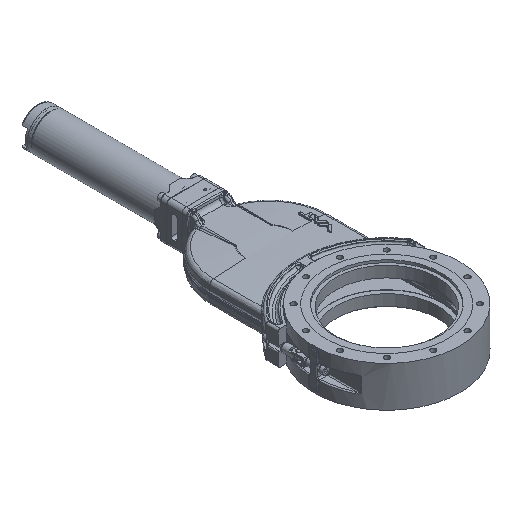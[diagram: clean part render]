
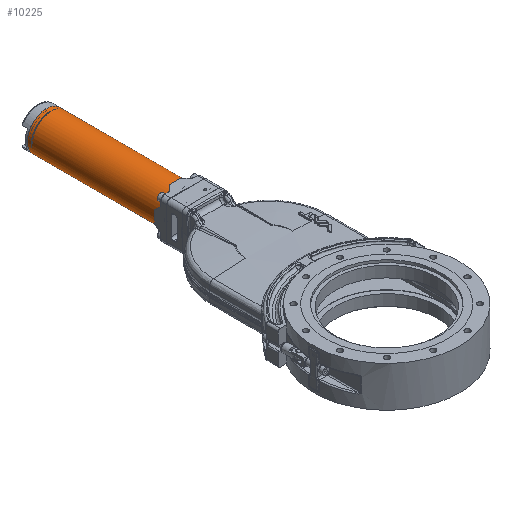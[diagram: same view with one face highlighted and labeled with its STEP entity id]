
A CAD part, isometric view. The second image highlights one B-rep face of the part: STEP entity #10225.
In plain terms, the highlighted free-form (B-spline) face has degree [2, 1] with [7, 2] control points.
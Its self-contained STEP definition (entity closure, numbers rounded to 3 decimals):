
#10150=CARTESIAN_POINT('V7',(37.5,278.0,0.0));
#10151=VERTEX_POINT('V7',#10150);
#10152=CARTESIAN_POINT('E21',(37.5,278.0,0.0));
#10153=CARTESIAN_POINT('E21',(37.5,278.0,
   64.952));
#10154=CARTESIAN_POINT('E21',(-18.75,278.0,
   32.476));
#10155=CARTESIAN_POINT('E21',(-75.,278.0,
   0.));
#10156=CARTESIAN_POINT('E21',(-18.75,278.0,
   -32.476));
#10157=CARTESIAN_POINT('E21',(37.5,278.0,
   -64.952));
#10158=CARTESIAN_POINT('E21',(37.5,278.0,0.0));
#10166=(BOUNDED_CURVE()B_SPLINE_CURVE(2,(#10152,#10153,#10154,
   #10155,#10156,#10157,#10158),.CIRCULAR_ARC.,.T.,.U.)
   B_SPLINE_CURVE_WITH_KNOTS((3,2,2,3),(0.0,0.333,
   0.667,1.0),.UNSPECIFIED.)CURVE()
   GEOMETRIC_REPRESENTATION_ITEM()RATIONAL_B_SPLINE_CURVE((1.0,
   0.5,1.0,0.5,1.0,0.5,1.0)
   )REPRESENTATION_ITEM('E21'));
#10167=EDGE_CURVE('E21',#10151,#10151,#10166,.T.);
#10175=CARTESIAN_POINT('F7',(37.5,7.14,
   0.0));
#10176=CARTESIAN_POINT('F7',(37.5,7.14,
   -64.952));
#10177=CARTESIAN_POINT('F7',(-18.75,7.14,
   -32.476));
#10178=CARTESIAN_POINT('F7',(-75.,7.14,
   0.));
#10179=CARTESIAN_POINT('F7',(-18.75,7.14,
   32.476));
#10180=CARTESIAN_POINT('F7',(37.5,7.14,
   64.952));
#10181=CARTESIAN_POINT('F7',(37.5,7.14,
   0.0));
#10182=CARTESIAN_POINT('F7',(37.5,278.0,0.0));
#10183=CARTESIAN_POINT('F7',(37.5,278.,
   -64.952));
#10184=CARTESIAN_POINT('F7',(-18.75,278.0,
   -32.476));
#10185=CARTESIAN_POINT('F7',(-75.,278.,
   0.));
#10186=CARTESIAN_POINT('F7',(-18.75,278.0,
   32.476));
#10187=CARTESIAN_POINT('F7',(37.5,278.,
   64.952));
#10188=CARTESIAN_POINT('F7',(37.5,278.0,0.0));
#10196=(BOUNDED_SURFACE()B_SPLINE_SURFACE(2,1,((#10175,#10182),(
   #10176,#10183),(#10177,#10184),(#10178,#10185),(#10179,
   #10186),(#10180,#10187),(#10181,#10188)),.CYLINDRICAL_SURF.,
   .T.,.F.,.U.)B_SPLINE_SURFACE_WITH_KNOTS((3,2,2,3),(2,2),(0.0,
   0.48,0.959,1.439),(0.0,1.0),
   .UNSPECIFIED.)GEOMETRIC_REPRESENTATION_ITEM()
   RATIONAL_B_SPLINE_SURFACE(((1.0,1.0),(0.5,
   0.5),(1.0,1.0),(0.5,
   0.5),(1.0,1.0),(0.5,
   0.5),(1.0,1.0)))REPRESENTATION_ITEM('F7')SURFACE()
   );
#10197=CARTESIAN_POINT('V8',(37.5,7.14,
   0.0));
#10198=VERTEX_POINT('V8',#10197);
#10199=CARTESIAN_POINT('E8',(37.5,278.0,0.0));
#10200=CARTESIAN_POINT('E8',(37.5,7.14,
   0.0));
#10201=QUASI_UNIFORM_CURVE('E8',1,(#10199,#10200),.POLYLINE_FORM.,
   .F.,.U.);
#10202=EDGE_CURVE('E8',#10151,#10198,#10201,.T.);
#10203=ORIENTED_EDGE('E8',*,*,#10202,.F.);
#10204=ORIENTED_EDGE('F6',*,*,#10167,.F.);
#10205=ORIENTED_EDGE('E8',*,*,#10202,.T.);
#10206=CARTESIAN_POINT('E22',(37.5,7.14,
   0.0));
#10207=CARTESIAN_POINT('E22',(37.5,7.14,
   -64.952));
#10208=CARTESIAN_POINT('E22',(-18.75,7.14,
   -32.476));
#10209=CARTESIAN_POINT('E22',(-75.,7.14,
   0.));
#10210=CARTESIAN_POINT('E22',(-18.75,7.14,
   32.476));
#10211=CARTESIAN_POINT('E22',(37.5,7.14,
   64.952));
#10212=CARTESIAN_POINT('E22',(37.5,7.14,
   0.0));
#10220=(BOUNDED_CURVE()B_SPLINE_CURVE(2,(#10206,#10207,#10208,
   #10209,#10210,#10211,#10212),.CIRCULAR_ARC.,.T.,.U.)
   B_SPLINE_CURVE_WITH_KNOTS((3,2,2,3),(0.0,0.48,
   0.959,1.439),.UNSPECIFIED.)CURVE()
   GEOMETRIC_REPRESENTATION_ITEM()RATIONAL_B_SPLINE_CURVE((1.0,
   0.5,1.0,0.5,1.0,0.5,1.0)
   )REPRESENTATION_ITEM('E22'));
#10221=EDGE_CURVE('E22',#10198,#10198,#10220,.T.);
#10222=ORIENTED_EDGE('E22',*,*,#10221,.F.);
#10223=EDGE_LOOP('F7',(#10203,#10204,#10205,#10222));
#10224=FACE_OUTER_BOUND('F7',#10223,.F.);
#10225=ADVANCED_FACE('F7',(#10224),#10196,.T.);
